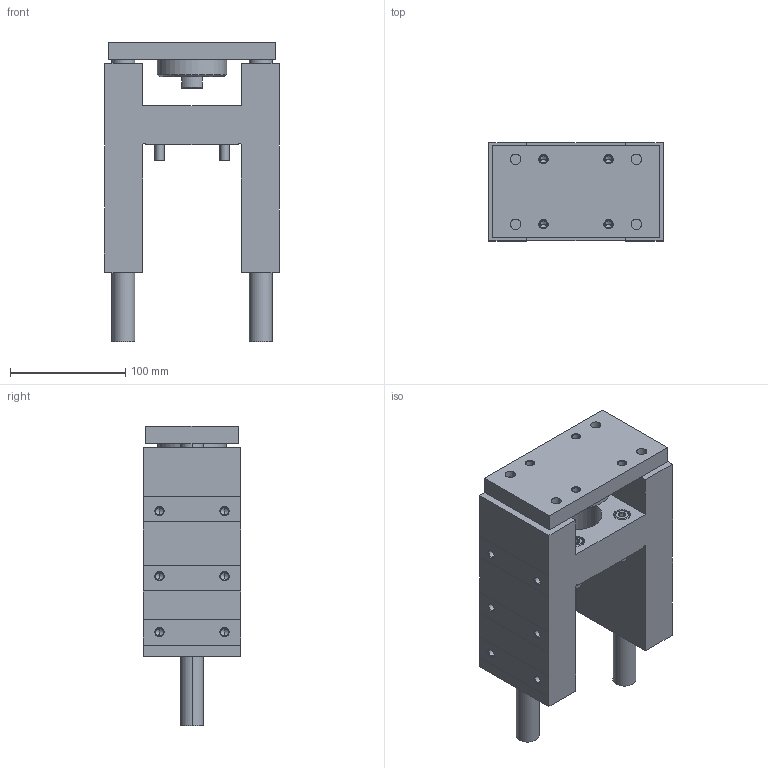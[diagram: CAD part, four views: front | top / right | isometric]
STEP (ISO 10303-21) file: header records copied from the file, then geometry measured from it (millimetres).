
FILE_DESCRIPTION (( 'STEP AP203' ), '1' );
FILE_NAME ('GB63-40.STEP', '2020-04-24T13:19:03', ( '' ), ( '' ), 'SwSTEP 2.0', 'SolidWorks 2019', '' );
FILE_SCHEMA (( 'CONFIG_CONTROL_DESIGN' ));
Length unit declared in the file: millimetre
Products named in the file (1): GB63-40
Bounding box: 152 x 85 x 260 mm (x, y, z)
Volume: 1450010.9 mm3; surface area: 219231.9 mm2
Topology: 6 solids, 6 shells, 363 faces, 814 edges, 462 vertices
Faces by surface type: cone 146, plane 115, cylinder 102
Entity records: 10453 total; most frequent: CARTESIAN_POINT 2284, DIRECTION 1812, ORIENTED_EDGE 1556, EDGE_CURVE 778, AXIS2_PLACEMENT_3D 702, VERTEX_POINT 462, EDGE_LOOP 428, LINE 408
